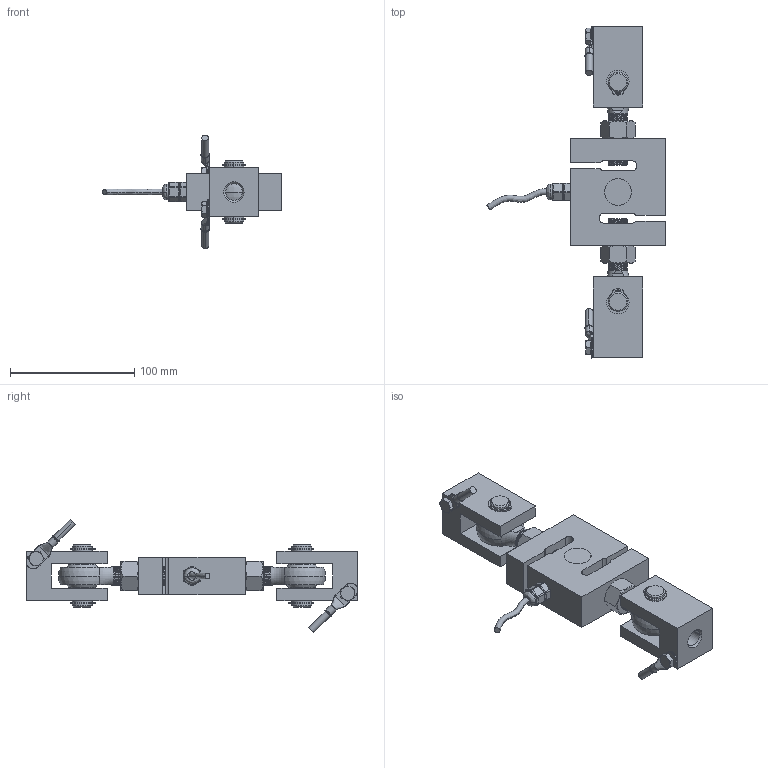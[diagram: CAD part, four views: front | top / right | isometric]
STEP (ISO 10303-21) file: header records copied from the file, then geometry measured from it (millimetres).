
FILE_DESCRIPTION (( 'STEP AP203' ), '1' );
FILE_NAME ('HI LPTLB_4.4KLB.STEP', '2014-10-14T21:22:58', ( '' ), ( '' ), 'SwSTEP 2.0', 'SolidWorks 2013', '' );
FILE_SCHEMA (( 'CONFIG_CONTROL_DESIGN' ));
Length unit declared in the file: millimetre
Products named in the file (12): Copper; Load Element; hex nut_ai_HNUT 0.6250-11-D-S; Element Core; heavy duty external retaining ring_am_B27.8M - 3DM1-15; Cable and Adapter; HI LPTLB_4.4KLB; hex finished bolt_ai_HFBOLT 0.25-20x0.375x0.375-C; Ground Strap Lug; Male Rod End_6072K135; Clevis; Clevis Pin
Assembly tree (21 placements, depth 2):
  HI LPTLB_4.4KLB
    Load Element
    Element Core
    Cable and Adapter
    hex finished bolt_ai_HFBOLT 0.25-20x0.375x0.375-C  x2
    Ground Strap Lug  x2
    Male Rod End_6072K135  x2
    Clevis  x2
    Clevis Pin  x2
    Copper  x2
    hex nut_ai_HNUT 0.6250-11-D-S  x2
    heavy duty external retaining ring_am_B27.8M - 3DM1-15  x4
Bounding box: 143.73 x 267.15 x 91.1 mm (x, y, z)
Volume: 372093.3 mm3; surface area: 104563.2 mm2
Topology: 27 solids, 27 shells, 1109 faces, 2409 edges, 1356 vertices
Faces by surface type: cylinder 467, cone 380, plane 188, bspline 36, sphere 20, torus 18
Entity records: 24219 total; most frequent: CARTESIAN_POINT 9895, DIRECTION 2763, ORIENTED_EDGE 2580, EDGE_CURVE 1290, AXIS2_PLACEMENT_3D 1094, VERTEX_POINT 730, EDGE_LOOP 634, FACE_OUTER_BOUND 598
